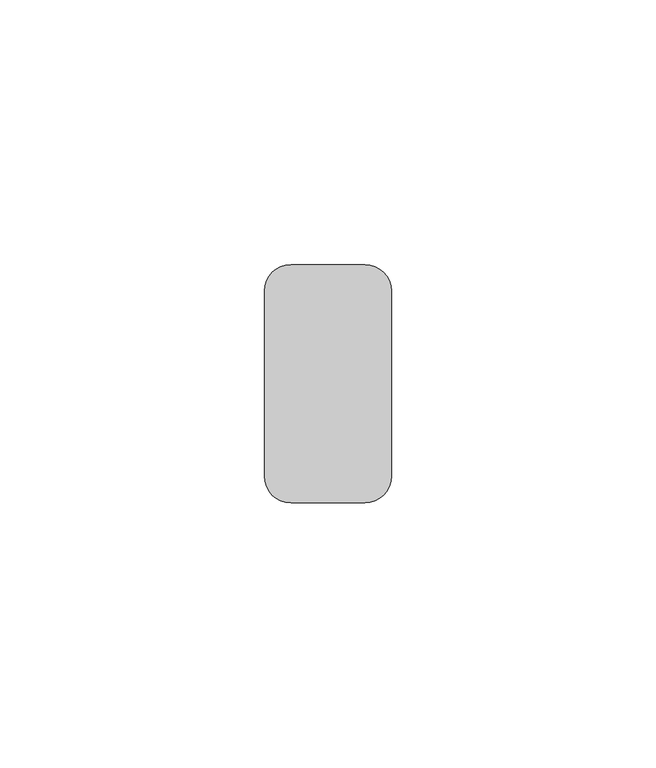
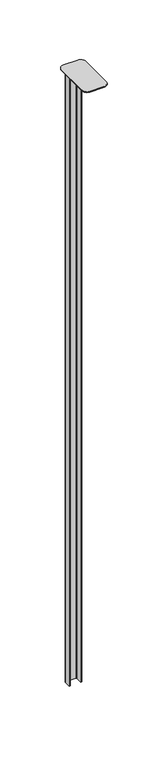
"""IFC4 building model written with IfcOpenShell, lengths in millimetres: proxy geometry, durlum_U1300 : durlum_U1300."""

import ifcopenshell
import ifcopenshell.guid

model = None  # the IFC model being written
_history = None  # IfcOwnerHistory: only IFC2X3 demands one
_inside = {}  # id of a spatial element -> (the spatial element, [elements in it])
_under = {}  # id of a project, library or spatial element -> (it, [spatial elements below it])
_declared = {}  # id of a project -> (the project, [libraries it declares])
_typed = {}  # id of a type object -> (the type object, [elements of that type])
_made_of = {}  # id of a material, layer set ... -> (it, [elements and type objects made of it])


def new_model(schema):
    """Start an empty IFC model of exactly this schema.

    Asked for "IFC4X3", IfcOpenShell would pick the latest addendum, in which some entities
    have other attributes; the version numbers below select the first issue.
    IFC2X3 requires an IfcOwnerHistory on every rooted entity: one is made here for all.
    """
    global model, _history
    if schema == "IFC4X3":
        model = ifcopenshell.file(schema_version=(4, 3, 0, 0))
    else:
        model = ifcopenshell.file(schema=schema)
    _inside.clear()
    _under.clear()
    _declared.clear()
    _typed.clear()
    _made_of.clear()
    _history = None
    if model.schema == "IFC2X3":
        org = make("IfcOrganization", Name="unknown")
        user = make(
            "IfcPersonAndOrganization",
            ThePerson=make("IfcPerson", FamilyName="unknown"),
            TheOrganization=org,
        )
        app = make(
            "IfcApplication",
            ApplicationDeveloper=org,
            Version="unknown",
            ApplicationFullName="unknown",
            ApplicationIdentifier="unknown",
        )
        _history = make(
            "IfcOwnerHistory",
            OwningUser=user,
            OwningApplication=app,
            ChangeAction="ADDED",
            CreationDate=0,
        )
    return model


def make(cls, **values):
    """One entity of the class cls with the attributes given. An attribute that is None is left unset."""
    return model.create_entity(
        cls, **{name: value for name, value in values.items() if value is not None}
    )


def rooted(cls, **values):
    """An entity with a GlobalId (a new one), such as an element, a storey or a relation."""
    return make(cls, GlobalId=ifcopenshell.guid.new(), OwnerHistory=_history, **values)


def si_unit(unit_type, name, prefix=None):
    """IfcSIUnit, for example si_unit("LENGTHUNIT", "METRE", prefix="MILLI")."""
    return make("IfcSIUnit", UnitType=unit_type, Prefix=prefix, Name=name)


def assignment(units):
    """IfcUnitAssignment: the units of a project."""
    return None if units is None else make("IfcUnitAssignment", Units=units)


def point(xyz):
    """IfcCartesianPoint."""
    return None if xyz is None else make("IfcCartesianPoint", Coordinates=xyz)


def direction(xyz):
    """IfcDirection."""
    return None if xyz is None else make("IfcDirection", DirectionRatios=xyz)


def frame(location, z_axis=None, x_axis=None):
    """IfcAxis2Placement3D, a coordinate frame: its origin and axes. An axis left out is left unset."""
    return make(
        "IfcAxis2Placement3D",
        Location=point(location),
        Axis=direction(z_axis),
        RefDirection=direction(x_axis),
    )


def frame_2d(location, x_axis=None):
    """IfcAxis2Placement2D, a coordinate frame in the plane: its origin and x axis."""
    return make(
        "IfcAxis2Placement2D", Location=point(location), RefDirection=direction(x_axis)
    )


def origin():
    """The frame at (0, 0, 0) with its axes left unset."""
    return frame((0.0, 0.0, 0.0))


def place(relative_to, where):
    """IfcLocalPlacement: puts the frame where relative to a parent placement (None: the world)."""
    return make(
        "IfcLocalPlacement", PlacementRelTo=relative_to, RelativePlacement=where
    )


def context(
    kind, dimensions, precision=None, world=None, true_north=None, identifier=None
):
    """IfcGeometricRepresentationContext, for example the 3D "Model" context."""
    return make(
        "IfcGeometricRepresentationContext",
        ContextIdentifier=identifier,
        ContextType=kind,
        CoordinateSpaceDimension=dimensions,
        Precision=precision,
        WorldCoordinateSystem=world,
        TrueNorth=true_north,
    )


def project(units=None, contexts=None):
    """IfcProject with its units and contexts."""
    return rooted(
        "IfcProject",
        Name="project",
        RepresentationContexts=contexts,
        UnitsInContext=assignment(units),
    )


def spatial(cls, under=None, at=None, **own):
    """A site, building, storey or space (cls), placed at a placement, below another one or the project."""
    s = rooted(cls, ObjectPlacement=at, **own)
    if under is not None:
        _under.setdefault(under.id(), (under, []))[1].append(s)
    return s


def polyline(points):
    """IfcPolyline through the points."""
    return make("IfcPolyline", Points=[point(p) for p in points])


def circle_curve(where, radius):
    """IfcCircle in the frame where."""
    return make("IfcCircle", Position=where, Radius=radius)


def trimmed(basis, trim1, trim2, sense, master):
    """IfcTrimmedCurve: the piece of a basis curve between two trims."""
    return make(
        "IfcTrimmedCurve",
        BasisCurve=basis,
        Trim1=trim1,
        Trim2=trim2,
        SenseAgreement=sense,
        MasterRepresentation=master,
    )


def segment(curve, same_sense, transition):
    """IfcCompositeCurveSegment."""
    return make(
        "IfcCompositeCurveSegment",
        Transition=transition,
        SameSense=same_sense,
        ParentCurve=curve,
    )


def composite_curve(segments, self_intersect=None):
    """IfcCompositeCurve: segments joined end to end."""
    return make("IfcCompositeCurve", Segments=segments, SelfIntersect=self_intersect)


def outline(outer, holes=None, kind="AREA"):
    """IfcArbitraryClosedProfileDef: a profile drawn as a closed curve; with holes, ...WithVoids."""
    if holes is None:
        return make("IfcArbitraryClosedProfileDef", ProfileType=kind, OuterCurve=outer)
    return make(
        "IfcArbitraryProfileDefWithVoids",
        ProfileType=kind,
        OuterCurve=outer,
        InnerCurves=holes,
    )


def extrude(swept, where, along, depth):
    """IfcExtrudedAreaSolid: the profile swept, set in the frame where, extruded along a direction by depth."""
    return make(
        "IfcExtrudedAreaSolid",
        SweptArea=swept,
        Position=where,
        ExtrudedDirection=direction(along),
        Depth=depth,
    )


def shape(context_of_items, identifier, shape_type, items):
    """IfcShapeRepresentation: the items that make up one representation, for example the "Body"."""
    return make(
        "IfcShapeRepresentation",
        ContextOfItems=context_of_items,
        RepresentationIdentifier=identifier,
        RepresentationType=shape_type,
        Items=items,
    )


def source(mapping_origin, context_of_items, identifier, shape_type, items):
    """IfcRepresentationMap: a shape defined once, which mapped items show again and again."""
    return make(
        "IfcRepresentationMap",
        MappingOrigin=mapping_origin,
        MappedRepresentation=shape(context_of_items, identifier, shape_type, items),
    )


def transform(
    local_origin,
    x_axis=None,
    y_axis=None,
    z_axis=None,
    scale=None,
    scale2=None,
    scale3=None,
    uniform=True,
):
    """IfcCartesianTransformationOperator3D, or its non-uniform kind. x_axis, y_axis, z_axis: its Axis1, 2, 3."""
    if uniform:
        return make(
            "IfcCartesianTransformationOperator3D",
            Axis1=direction(x_axis),
            Axis2=direction(y_axis),
            LocalOrigin=point(local_origin),
            Scale=scale,
            Axis3=direction(z_axis),
        )
    return make(
        "IfcCartesianTransformationOperator3DnonUniform",
        Axis1=direction(x_axis),
        Axis2=direction(y_axis),
        LocalOrigin=point(local_origin),
        Scale=scale,
        Axis3=direction(z_axis),
        Scale2=scale2,
        Scale3=scale3,
    )


def mapped(mapping_source, mapping_target):
    """IfcMappedItem: shows the shape of a source again, moved by a transform."""
    return make(
        "IfcMappedItem", MappingSource=mapping_source, MappingTarget=mapping_target
    )


def made_of(thing, what):
    """Note that an element or type object is made of a material, layer set ...; save() writes the relation."""
    if what is not None:
        _made_of.setdefault(what.id(), (what, []))[1].append(thing)
    return thing


def element(
    cls,
    number,
    at=None,
    inside=None,
    cuts=None,
    type_object=None,
    material=None,
    context=None,
    identifier="Body",
    shape_type=None,
    held_by="IfcProductDefinitionShape",
    body=None,
    shapes=None,
    **own,
):
    """One element of the class cls, such as IfcWall. Its Tag is "e" and its number.

    at: its placement. inside: the storey or other place that contains it. cuts: it is an
    opening in that element (IfcRelVoidsElement). A single representation is given by context,
    identifier, shape_type and body (its items); several are given by shapes. held_by: the class
    of the entity that holds the representations. save() writes the other relations.
    """
    e = rooted(cls, Tag="e%d" % number, ObjectPlacement=at, **own)
    if body is not None:
        shapes = [shape(context, identifier, shape_type, body)]
    if shapes is not None:
        e.Representation = make(held_by, Representations=shapes)
    if inside is not None:
        _inside.setdefault(inside.id(), (inside, []))[1].append(e)
    if cuts is not None:
        rooted(
            "IfcRelVoidsElement", RelatingBuildingElement=cuts, RelatedOpeningElement=e
        )
    if type_object is not None:
        _typed.setdefault(type_object.id(), (type_object, []))[1].append(e)
    return made_of(e, material)


def aggregate(whole, parts):
    """IfcRelAggregates: a whole, such as a stair, and the parts it consists of."""
    return rooted("IfcRelAggregates", RelatingObject=whole, RelatedObjects=parts)


def save(model, path):
    """Write the relations noted so far, then the file.

    IfcRelAggregates (storeys below a building ...), IfcRelContainedInSpatialStructure (elements
    in a storey), IfcRelDefinesByType, IfcRelAssociatesMaterial and IfcRelDeclares: one each for
    every whole, place, type object, material and project.
    """
    for whole, parts in _under.values():
        aggregate(whole, parts)
    for where, things in _inside.values():
        rooted(
            "IfcRelContainedInSpatialStructure",
            RelatedElements=things,
            RelatingStructure=where,
        )
    for kind, things in _typed.values():
        rooted("IfcRelDefinesByType", RelatedObjects=things, RelatingType=kind)
    for what, things in _made_of.values():
        rooted("IfcRelAssociatesMaterial", RelatedObjects=things, RelatingMaterial=what)
    for by, libraries in _declared.values():
        rooted("IfcRelDeclares", RelatingContext=by, RelatedDefinitions=libraries)
    model.write(path)


def generic_models_2a4c3610(model_context):
    return source(origin(), model_context, "Body", "SweptSolid", [
        extrude(outline(composite_curve([segment(trimmed(circle_curve(frame_2d((7.0, -5.0)), 5.0), [point((7.0, 0.0))], [point((12.0, -5.0))], False, "CARTESIAN"), True, "CONTINUOUS"), segment(polyline([(12.0, -5.0), (12.0, -40.0)]), True, "CONTINUOUS"), segment(trimmed(circle_curve(frame_2d((7.0, -40.0)), 5.0), [point((12.0, -40.0))], [point((7.0, -45.0))], False, "CARTESIAN"), True, "CONTINUOUS"), segment(polyline([(7.0, -45.0), (-7.0, -45.0)]), True, "CONTINUOUS"), segment(trimmed(circle_curve(frame_2d((-7.0, -40.0)), 5.0), [point((-7.0, -45.0))], [point((-12.0, -40.0))], False, "CARTESIAN"), True, "CONTINUOUS"), segment(polyline([(-12.0, -40.0), (-12.0, -5.0)]), True, "CONTINUOUS"), segment(trimmed(circle_curve(frame_2d((-7.0, -5.0)), 5.0), [point((-12.0, -5.0))], [point((-7.0, 0.0))], False, "CARTESIAN"), True, "CONTINUOUS"), segment(polyline([(-7.0, 0.0), (7.0, 0.0)]), True, "CONTINUOUS")], self_intersect=False)), frame((0.0, 0.0, 1358.5275412), z_axis=(0.0, 0.0, 1.0), x_axis=(1.0, 0.0, 0.0)), (0.0, 0.0, 1.0), 1.0),
        extrude(outline(composite_curve([segment(trimmed(circle_curve(frame_2d((-4.25, -2.0)), 2.0), [point((-6.25, -2.0))], [point((-4.25, 0.0))], False, "CARTESIAN"), True, "CONTINUOUS"), segment(polyline([(-4.25, 0.0), (4.25, 0.0)]), True, "CONTINUOUS"), segment(trimmed(circle_curve(frame_2d((4.25, -2.0)), 2.0), [point((4.25, 0.0))], [point((6.25, -2.0))], False, "CARTESIAN"), True, "CONTINUOUS"), segment(polyline([(6.25, -2.0), (6.25, -8.0), (5.25, -8.0), (5.25, -2.0)]), True, "CONTINUOUS"), segment(trimmed(circle_curve(frame_2d((4.25, -2.0)), 1.0), [point((5.25, -2.0))], [point((4.25, -1.0))], True, "CARTESIAN"), True, "CONTINUOUS"), segment(polyline([(4.25, -1.0), (-4.25, -1.0)]), True, "CONTINUOUS"), segment(trimmed(circle_curve(frame_2d((-4.25, -2.0)), 1.0), [point((-4.25, -1.0))], [point((-5.25, -2.0))], True, "CARTESIAN"), True, "CONTINUOUS"), segment(polyline([(-5.25, -2.0), (-5.25, -8.0), (-6.25, -8.0), (-6.25, -2.0)]), True, "CONTINUOUS")], self_intersect=False)), frame((0.0, 0.0, 716.5875318), z_axis=(0.0, 0.0, 1.0), x_axis=(1.0, 0.0, 0.0)), (0.0, 0.0, 1.0), 641.9400094),
    ])


if __name__ == "__main__":
    model = new_model("IFC4")
    model_context = context("Model", 3, world=origin())
    ifc_project = project(units=[si_unit("LENGTHUNIT", "METRE", prefix="MILLI")], contexts=[model_context])
    site = spatial("IfcSite", under=ifc_project)
    building = spatial("IfcBuilding", under=site)
    placement = place(None, origin())
    generic_models_shape = generic_models_2a4c3610(model_context)
    element("IfcBuildingElementProxy", 1, Name="durlum_U1300 : durlum_U1300", ObjectType="durlum_U1300 : durlum_U1300", at=placement, inside=building, context=model_context, shape_type="MappedRepresentation", body=[
        mapped(generic_models_shape, transform((0.0, 0.0, 0.0), x_axis=(1.0, 0.0, 0.0), y_axis=(0.0, 1.0, 0.0), z_axis=(0.0, 0.0, 1.0))),
    ])
    save(model, "model.ifc")
